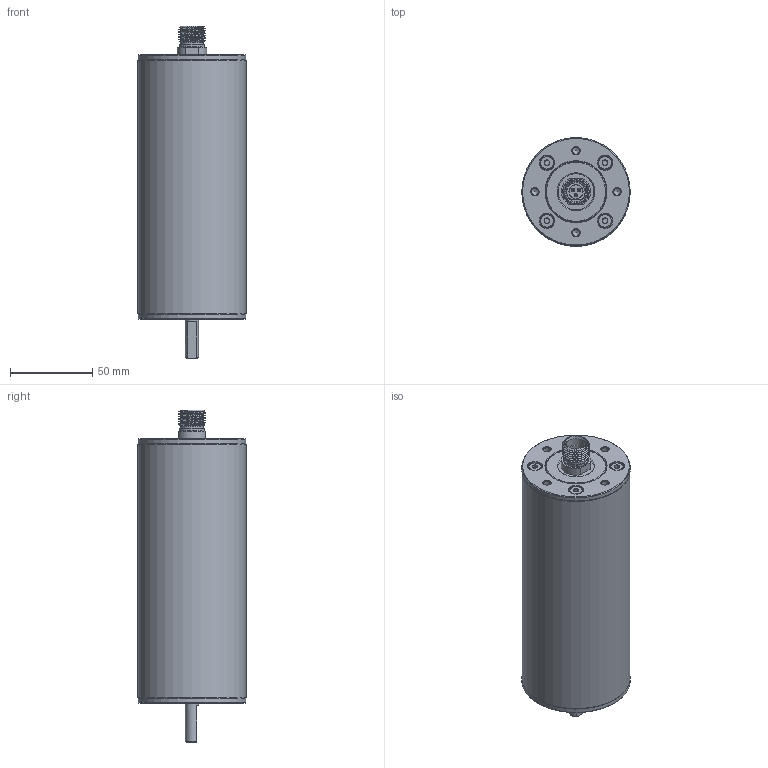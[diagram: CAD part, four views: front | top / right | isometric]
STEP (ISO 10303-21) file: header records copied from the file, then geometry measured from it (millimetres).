
FILE_DESCRIPTION (( 'STEP AP203' ), '1' );
FILE_NAME ('MTR-2000.STEP', '2023-05-19T20:37:19', ( '' ), ( '' ), 'SwSTEP 2.0', 'SolidWorks 2022', '' );
FILE_SCHEMA (( 'CONFIG_CONTROL_DESIGN' ));
Length unit declared in the file: millimetre
Products named in the file (1): MTR-2000
Bounding box: 66 x 66 x 202.16 mm (x, y, z)
Volume: 550760 mm3; surface area: 47557.1 mm2
Topology: 1 solids, 12 shells, 326 faces, 654 edges, 400 vertices
Faces by surface type: plane 135, cone 107, cylinder 79, bspline 3, torus 2
Full cylindrical faces by diameter (mm): 1.041 x2, 1.524 x3, 1.587 x3, 1.905 x3, 1.956 x3, 3.3 x1, 4.2 x12, 7.441 x1, 7.98 x1, 8 x2, 8.3 x1, 8.5 x8, 9 x8, 9.95 x1, 10.1 x1, 10.7 x1, 11.608 x1, 12.1 x1, 13.9 x1, 14 x1, 14.4 x1, 15.1 x1, 15.2 x1, 20.9 x1, 21.4 x1, 22 x1, 28 x1, 28.03 x1, 37 x2, 37.3 x2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
Entity records: 10163 total; most frequent: CARTESIAN_POINT 4227, DIRECTION 1292, ORIENTED_EDGE 910, AXIS2_PLACEMENT_3D 576, EDGE_LOOP 514, EDGE_CURVE 455, FACE_OUTER_BOUND 398, VERTEX_POINT 331
